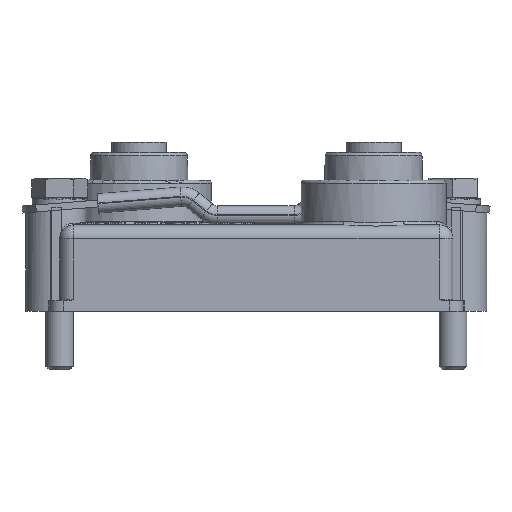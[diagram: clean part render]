
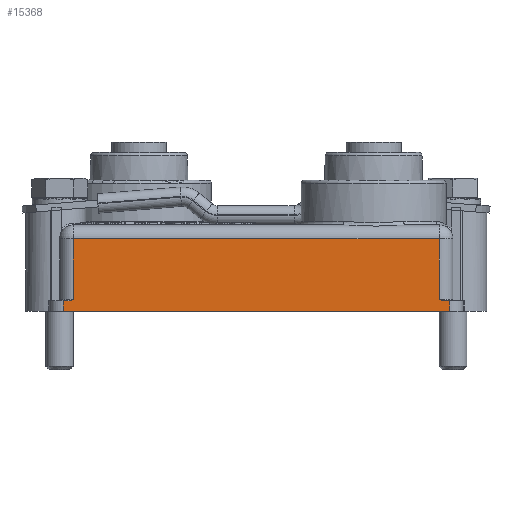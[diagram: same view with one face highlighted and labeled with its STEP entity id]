
A CAD part, left-side view. The second image highlights one B-rep face of the part: STEP entity #15368.
In plain terms, the highlighted planar face has unit normal (-1, 0, 0) as drawn and (0, -1, 0) by its records, which use the part's own axes.
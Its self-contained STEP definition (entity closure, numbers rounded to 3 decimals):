
#296=LINE('',#21007,#1297);
#536=LINE('',#23025,#1537);
#537=LINE('',#23028,#1538);
#538=LINE('',#23030,#1539);
#539=LINE('',#23037,#1540);
#540=LINE('',#23038,#1541);
#541=LINE('',#23045,#1542);
#542=LINE('',#23047,#1543);
#1297=VECTOR('',#17187,1000.);
#1537=VECTOR('',#17687,1000.);
#1538=VECTOR('',#17688,1000.);
#1539=VECTOR('',#17689,1000.);
#1540=VECTOR('',#17690,1000.);
#1541=VECTOR('',#17691,1000.);
#1542=VECTOR('',#17692,1000.);
#1543=VECTOR('',#17693,1000.);
#2380=B_SPLINE_CURVE_WITH_KNOTS('',3,(#23032,#23033,#23034,#23035),
 .UNSPECIFIED.,.F.,.F.,(4,4),(0.,0.001),
 .UNSPECIFIED.);
#2381=B_SPLINE_CURVE_WITH_KNOTS('',3,(#23040,#23041,#23042,#23043),
 .UNSPECIFIED.,.F.,.F.,(4,4),(0.,0.001),
 .UNSPECIFIED.);
#3709=ORIENTED_EDGE('',*,*,#6805,.T.);
#3710=ORIENTED_EDGE('',*,*,#6806,.T.);
#3711=ORIENTED_EDGE('',*,*,#6807,.T.);
#3712=ORIENTED_EDGE('',*,*,#6808,.T.);
#3713=ORIENTED_EDGE('',*,*,#6809,.T.);
#3714=ORIENTED_EDGE('',*,*,#6447,.T.);
#3715=ORIENTED_EDGE('',*,*,#6810,.F.);
#3716=ORIENTED_EDGE('',*,*,#6811,.F.);
#3717=ORIENTED_EDGE('',*,*,#6812,.F.);
#3718=ORIENTED_EDGE('',*,*,#6813,.F.);
#6447=EDGE_CURVE('',#8177,#8176,#296,.T.);
#6805=EDGE_CURVE('',#8362,#8363,#536,.T.);
#6806=EDGE_CURVE('',#8363,#8364,#537,.T.);
#6807=EDGE_CURVE('',#8364,#8365,#538,.T.);
#6808=EDGE_CURVE('',#8365,#8366,#2380,.T.);
#6809=EDGE_CURVE('',#8366,#8177,#539,.T.);
#6810=EDGE_CURVE('',#8367,#8176,#540,.T.);
#6811=EDGE_CURVE('',#8368,#8367,#2381,.T.);
#6812=EDGE_CURVE('',#8369,#8368,#541,.T.);
#6813=EDGE_CURVE('',#8362,#8369,#542,.T.);
#8176=VERTEX_POINT('',#21006);
#8177=VERTEX_POINT('',#21008);
#8362=VERTEX_POINT('',#23026);
#8363=VERTEX_POINT('',#23027);
#8364=VERTEX_POINT('',#23029);
#8365=VERTEX_POINT('',#23031);
#8366=VERTEX_POINT('',#23036);
#8367=VERTEX_POINT('',#23039);
#8368=VERTEX_POINT('',#23044);
#8369=VERTEX_POINT('',#23046);
#9784=EDGE_LOOP('',(#3709,#3710,#3711,#3712,#3713,#3714,#3715,#3716,#3717,
#3718));
#10561=FACE_BOUND('',#9784,.T.);
#11183=PLANE('',#16093);
#15368=ADVANCED_FACE('',(#10561),#11183,.T.);
#16093=AXIS2_PLACEMENT_3D('',#23024,#17685,#17686);
#17187=DIRECTION('',(-1.,0.,0.));
#17685=DIRECTION('',(0.,-1.,0.));
#17686=DIRECTION('',(0.,0.,-1.));
#17687=DIRECTION('',(1.,0.,0.));
#17688=DIRECTION('',(0.,0.,1.));
#17689=DIRECTION('',(-1.,0.,0.));
#17690=DIRECTION('',(0.,0.,1.));
#17691=DIRECTION('',(0.,0.,1.));
#17692=DIRECTION('',(1.,0.,0.));
#17693=DIRECTION('',(0.,0.,1.));
#21006=CARTESIAN_POINT('',(-26.5,-30.,10.5));
#21007=CARTESIAN_POINT('',(0.,-30.,10.5));
#21008=CARTESIAN_POINT('',(26.5,-30.,10.5));
#23024=CARTESIAN_POINT('',(0.,-30.,0.));
#23025=CARTESIAN_POINT('',(0.,-30.,0.));
#23026=CARTESIAN_POINT('',(-28.,-30.,0.));
#23027=CARTESIAN_POINT('',(28.,-30.,0.));
#23028=CARTESIAN_POINT('',(28.,-30.,1.5));
#23029=CARTESIAN_POINT('',(28.,-30.,1.5));
#23030=CARTESIAN_POINT('',(30.,-30.,1.5));
#23031=CARTESIAN_POINT('',(27.417,-30.,1.5));
#23032=CARTESIAN_POINT('',(27.417,-30.,1.5));
#23033=CARTESIAN_POINT('',(27.101,-30.,1.5));
#23034=CARTESIAN_POINT('',(26.798,-30.,1.606));
#23035=CARTESIAN_POINT('',(26.5,-30.,1.7));
#23036=CARTESIAN_POINT('',(26.5,-30.,1.7));
#23037=CARTESIAN_POINT('',(26.5,-30.,12.5));
#23038=CARTESIAN_POINT('',(-26.5,-30.,12.5));
#23039=CARTESIAN_POINT('',(-26.5,-30.,1.7));
#23040=CARTESIAN_POINT('',(-27.417,-30.,1.5));
#23041=CARTESIAN_POINT('',(-27.101,-30.,1.5));
#23042=CARTESIAN_POINT('',(-26.798,-30.,1.606));
#23043=CARTESIAN_POINT('',(-26.5,-30.,1.7));
#23044=CARTESIAN_POINT('',(-27.417,-30.,1.5));
#23045=CARTESIAN_POINT('',(-30.,-30.,1.5));
#23046=CARTESIAN_POINT('',(-28.,-30.,1.5));
#23047=CARTESIAN_POINT('',(-28.,-30.,1.5));
